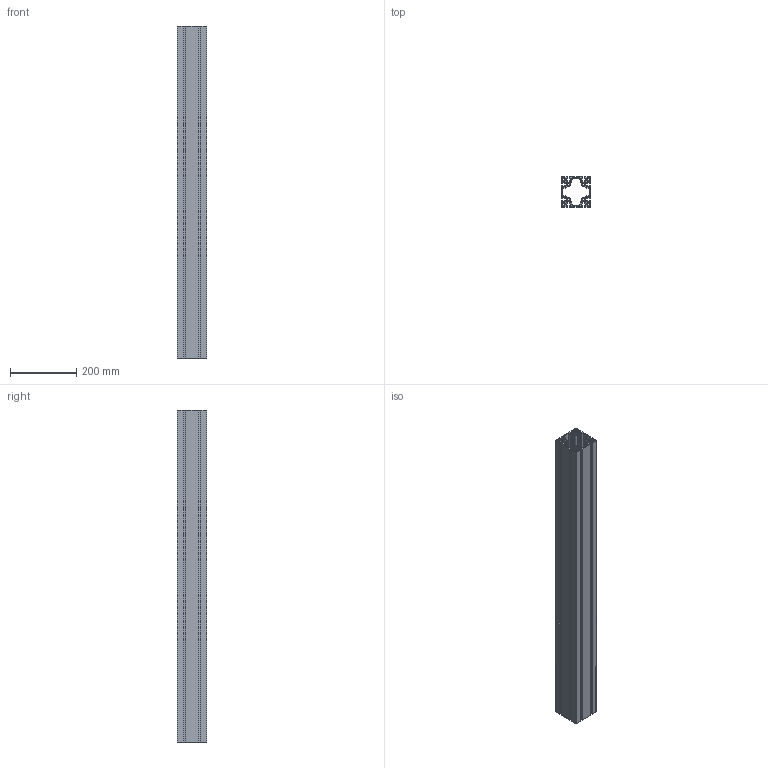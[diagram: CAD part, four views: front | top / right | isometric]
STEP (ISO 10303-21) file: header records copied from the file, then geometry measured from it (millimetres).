
FILE_DESCRIPTION(/* description */ (''),/* implementation_level */ '2;1');
FILE_NAME(/* name */ 'C:\Users\AMS43\Documents\Inventor\AMS\misumi\\X2\30D530EC30FC30E0\X0\_ipt\フレーム_stp\AFS-9090L-8.ipt.stp',/* time_stamp */ '2016-10-06T11:44:50+09:00',/* author */ ('AMS43'),/* organization */ (''),/* preprocessor_version */ 'ST-DEVELOPER v15.2',/* originating_system */ 'Autodesk Inventor 2014',/* authorisation */ '');
FILE_SCHEMA (('AUTOMOTIVE_DESIGN { 1 0 10303 214 3 1 1 }'));
Length unit declared in the file: metre
Products named in the file (1): AFS-9090L-8
Bounding box: 90 x 90 x 1000 mm (x, y, z)
Volume: 1957069.6 mm3; surface area: 1269886.5 mm2
Topology: 1 solids, 1 shells, 350 faces, 1044 edges, 696 vertices
Faces by surface type: plane 178, cylinder 172
Full cylindrical faces by diameter (mm): 6.8 x4
Entity records: 11899 total; most frequent: CARTESIAN_POINT 2087, DIRECTION 2086, ORIENTED_EDGE 2080, EDGE_CURVE 1040, LINE 696, VECTOR 696, VERTEX_POINT 696, AXIS2_PLACEMENT_3D 695
